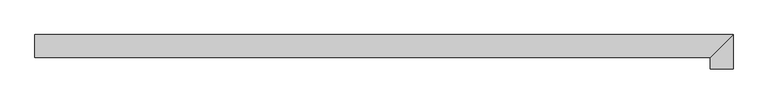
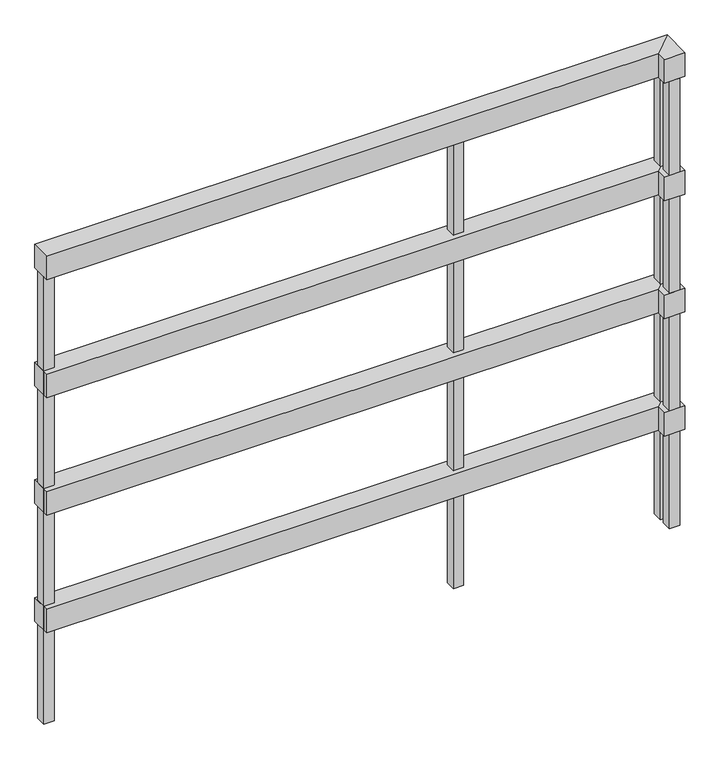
"""IFC4 building model written with IfcOpenShell, lengths in millimetres: railing geometry, RL780-금속재 난간."""

from ifc_helpers import new_model, si_unit, frame, origin, place, context, project, spatial, polyline, outline, extrude, faceted_brep, source, transform, mapped, element, save


def railing_67a96d7a(model_context):
    return source(origin(), model_context, "Body", "SolidModel", [
        faceted_brep([(-50.0, 5275.0, 19800.0), (-50.0, 5275.0, 19740.0), (-50.0, 5225.0, 19740.0), (-50.0, 5225.0, 19800.0), (1425.0, 5225.0, 19740.0), (1425.0, 5225.0, 19800.0), (1475.0, 5275.0, 19800.0), (1475.0, 5200.0, 19800.0), (1425.0, 5200.0, 19800.0), (1425.0, 5200.0, 19740.0), (1475.0, 5200.0, 19740.0), (1475.0, 5275.0, 19740.0)], [[[0, 1, 2, 3]], [[3, 2, 4, 5]], [[0, 3, 5, 6]], [[7, 8, 9, 10]], [[5, 4, 9, 8]], [[6, 5, 8, 7]], [[1, 0, 6, 11]], [[2, 1, 11, 4]], [[11, 6, 7, 10]], [[4, 11, 10, 9]]]),
        faceted_brep([(-50.0, 5275.0, 19500.0), (-50.0, 5275.0, 19440.0), (-50.0, 5225.0, 19440.0), (-50.0, 5225.0, 19500.0), (1425.0, 5225.0, 19440.0), (1425.0, 5225.0, 19500.0), (1475.0, 5275.0, 19500.0), (1475.0, 5200.0, 19500.0), (1425.0, 5200.0, 19500.0), (1425.0, 5200.0, 19440.0), (1475.0, 5200.0, 19440.0), (1475.0, 5275.0, 19440.0)], [[[0, 1, 2, 3]], [[3, 2, 4, 5]], [[0, 3, 5, 6]], [[7, 8, 9, 10]], [[5, 4, 9, 8]], [[6, 5, 8, 7]], [[1, 0, 6, 11]], [[2, 1, 11, 4]], [[11, 6, 7, 10]], [[4, 11, 10, 9]]]),
        faceted_brep([(-50.0, 5275.0, 19200.0), (-50.0, 5275.0, 19140.0), (-50.0, 5225.0, 19140.0), (-50.0, 5225.0, 19200.0), (1425.0, 5225.0, 19140.0), (1425.0, 5225.0, 19200.0), (1475.0, 5275.0, 19200.0), (1475.0, 5200.0, 19200.0), (1425.0, 5200.0, 19200.0), (1425.0, 5200.0, 19140.0), (1475.0, 5200.0, 19140.0), (1475.0, 5275.0, 19140.0)], [[[0, 1, 2, 3]], [[3, 2, 4, 5]], [[0, 3, 5, 6]], [[7, 8, 9, 10]], [[5, 4, 9, 8]], [[6, 5, 8, 7]], [[1, 0, 6, 11]], [[2, 1, 11, 4]], [[11, 6, 7, 10]], [[4, 11, 10, 9]]]),
        faceted_brep([(-50.0, 5275.0, 18900.0), (-50.0, 5275.0, 18840.0), (-50.0, 5225.0, 18840.0), (-50.0, 5225.0, 18900.0), (1425.0, 5225.0, 18840.0), (1425.0, 5225.0, 18900.0), (1475.0, 5275.0, 18900.0), (1475.0, 5200.0, 18900.0), (1425.0, 5200.0, 18900.0), (1425.0, 5200.0, 18840.0), (1475.0, 5200.0, 18840.0), (1475.0, 5275.0, 18840.0)], [[[0, 1, 2, 3]], [[3, 2, 4, 5]], [[0, 3, 5, 6]], [[7, 8, 9, 10]], [[5, 4, 9, 8]], [[6, 5, 8, 7]], [[1, 0, 6, 11]], [[2, 1, 11, 4]], [[11, 6, 7, 10]], [[4, 11, 10, 9]]]),
        extrude(outline(polyline([(937.5, 5237.5), (937.5, 5262.5), (962.5, 5262.5), (962.5, 5237.5), (937.5, 5237.5)])), frame((0.0, 0.0, 18600.0), z_axis=(0.0, 0.0, 1.0), x_axis=(1.0, 0.0, 0.0)), (0.0, 0.0, 1.0), 1140.0),
        extrude(outline(polyline([(1437.5, 5237.5), (1437.5, 5262.5), (1462.5, 5262.5), (1462.5, 5237.5), (1437.5, 5237.5)])), frame((0.0, 0.0, 18600.0), z_axis=(0.0, 0.0, 1.0), x_axis=(1.0, 0.0, 0.0)), (0.0, 0.0, 1.0), 1140.0),
        extrude(outline(polyline([(1437.5, 5225.0), (1462.5, 5225.0), (1462.5, 5200.0), (1437.5, 5200.0), (1437.5, 5225.0)])), frame((0.0, 0.0, 18600.0), z_axis=(0.0, 0.0, 1.0), x_axis=(1.0, 0.0, 0.0)), (0.0, 0.0, 1.0), 1140.0),
        extrude(outline(polyline([(-50.0, 5237.5), (-50.0, 5262.5), (-25.0, 5262.5), (-25.0, 5237.5), (-50.0, 5237.5)])), frame((0.0, 0.0, 18600.0), z_axis=(0.0, 0.0, 1.0), x_axis=(1.0, 0.0, 0.0)), (0.0, 0.0, 1.0), 1140.0),
    ])


if __name__ == "__main__":
    model = new_model("IFC4")
    model_context = context("Model", 3, world=origin())
    ifc_project = project(units=[si_unit("LENGTHUNIT", "METRE", prefix="MILLI")], contexts=[model_context])
    site = spatial("IfcSite", under=ifc_project)
    building = spatial("IfcBuilding", under=site)
    placement = place(None, origin())
    railing_shape = railing_67a96d7a(model_context)
    element("IfcRailing", 1, ObjectType="RL780-금속재 난간", at=placement, inside=building, context=model_context, shape_type="MappedRepresentation", body=[
        mapped(railing_shape, transform((0.0, 0.0, 0.0), x_axis=(1.0, 0.0, 0.0), y_axis=(0.0, 1.0, 0.0), z_axis=(0.0, 0.0, 1.0))),
    ])
    save(model, "model.ifc")
